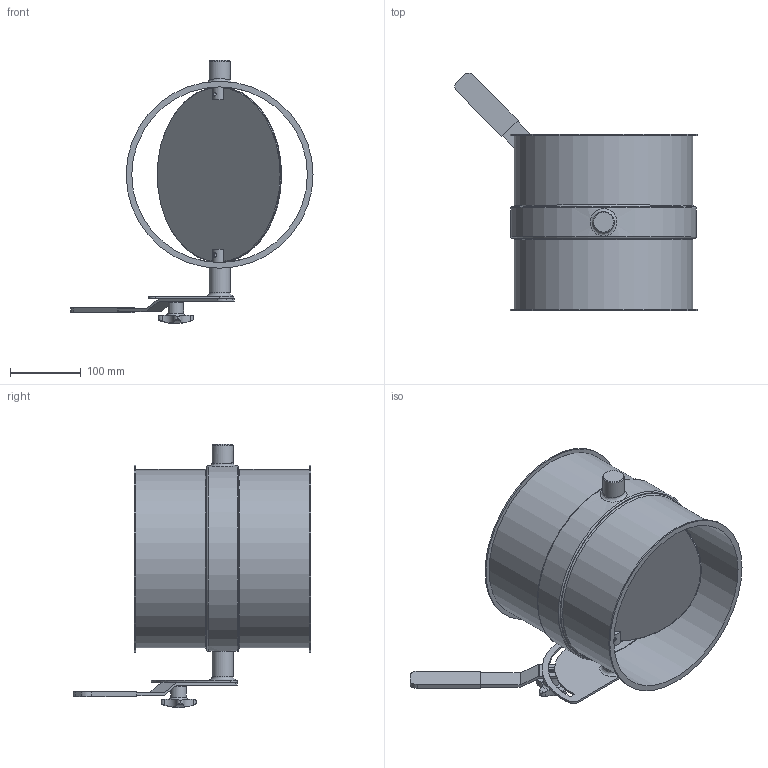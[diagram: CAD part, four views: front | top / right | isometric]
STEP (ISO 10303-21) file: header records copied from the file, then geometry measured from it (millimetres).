
FILE_DESCRIPTION((''),'2;1');
FILE_NAME('U:\Wolfgang\Marcel-3D\fertig\Kapitel 8\2521076.stp','2012-01-13T11:15:00',('iwienholt'),(''),'Autodesk Inventor 2010','Autodesk Inventor 2010','');
FILE_SCHEMA(('AUTOMOTIVE_DESIGN { 1 0 10303 214 1 1 1 1 }'));
Length unit declared in the file: millimetre
Products named in the file (7): 2521076; Bolzen D20; ganter_din_6335-ku-50-m10-k; Umstellsegment D20; Scheibe250b; Griff D20b; 2521076-1
Assembly tree (6 placements, depth 2):
  2521076
    Bolzen D20
    ganter_din_6335-ku-50-m10-k
    Umstellsegment D20
    Scheibe250b
    Griff D20b
    2521076-1
Bounding box: 343.24 x 336.79 x 373 mm (x, y, z)
Volume: 870117.9 mm3; surface area: 656535.8 mm2
Topology: 6 solids, 6 shells, 137 faces, 334 edges, 222 vertices
Faces by surface type: cylinder 54, plane 53, torus 13, bspline 11, cone 5, sphere 1
Full cylindrical faces by diameter (mm): 6 x4, 8 x1, 9 x1, 10 x2, 16 x1, 20 x8, 22 x1, 30 x3, 249 x3, 250 x1, 253 x2, 258 x1, 259 x1, 263 x1, 265 x2
Entity records: 5161 total; most frequent: CARTESIAN_POINT 1984, DIRECTION 626, ORIENTED_EDGE 532, AXIS2_PLACEMENT_3D 270, EDGE_CURVE 266, EDGE_LOOP 228, VERTEX_POINT 206, FACE_OUTER_BOUND 137
